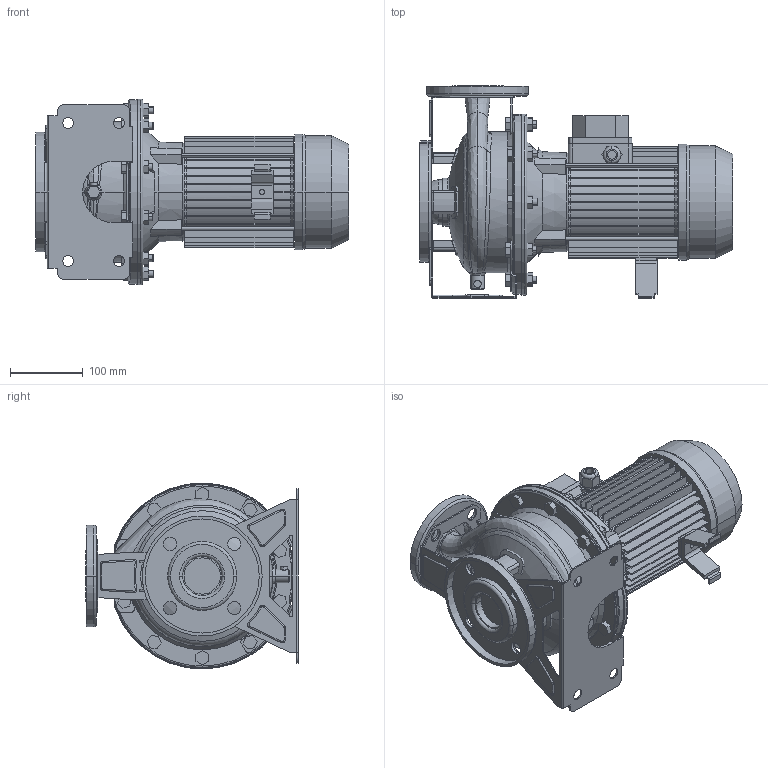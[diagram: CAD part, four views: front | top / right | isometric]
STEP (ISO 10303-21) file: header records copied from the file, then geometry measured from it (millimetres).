
FILE_DESCRIPTION((''),'2;1');
FILE_NAME('3M_32-160_2_2_IE3_ASM','2016-06-18T',('rosa'),('"Ebara Pumps Europe +39.444.706811"'),'PRO/ENGINEER BY PARAMETRIC TECHNOLOGY CORPORATION, 2012130','PRO/ENGINEER BY PARAMETRIC TECHNOLOGY CORPORATION, 2012130','');
FILE_SCHEMA(('AUTOMOTIVE_DESIGN { 1 0 10303 214 1 1 1 1 }'));
Length unit declared in the file: millimetre
Products named in the file (12): CORPO_32-160_AF3; ASP_32-160; FLANGIA_DIN_50; MAND_32-160; FLANGIA_DIN_32; BASE_3M_32-160; CORPO_SALDATO_32-160_ASM; 80741; MEC_80X130_IE3; SOSTEGNO_72004; 72015; 3M_32-160_2_2_IE3_ASM
Assembly tree (11 placements, depth 3):
  3M_32-160_2_2_IE3_ASM
    CORPO_SALDATO_32-160_ASM
      CORPO_32-160_AF3
      ASP_32-160
      FLANGIA_DIN_50
      MAND_32-160
      FLANGIA_DIN_32
      BASE_3M_32-160
    80741
    MEC_80X130_IE3
    SOSTEGNO_72004
    72015
Bounding box: 431 x 292 x 256 mm (x, y, z)
Volume: 6862018.8 mm3; surface area: 960146.4 mm2
Topology: 13 solids, 13 shells, 1107 faces, 2802 edges, 1783 vertices
Faces by surface type: plane 564, cylinder 330, cone 96, torus 68, bspline 43, sphere 6
Entity records: 47955 total; most frequent: CARTESIAN_POINT 10371, DIRECTION 5756, ORIENTED_EDGE 5604, EDGE_CURVE 2802, PRESENTATION_STYLE_ASSIGNMENT 2730, STYLED_ITEM 2730, CURVE_STYLE 2718, AXIS2_PLACEMENT_3D 2125
